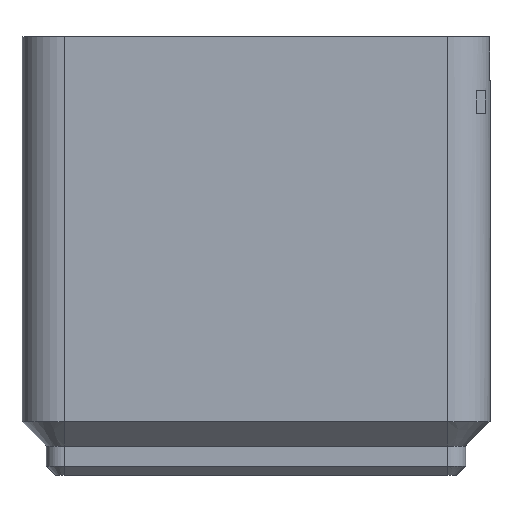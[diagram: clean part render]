
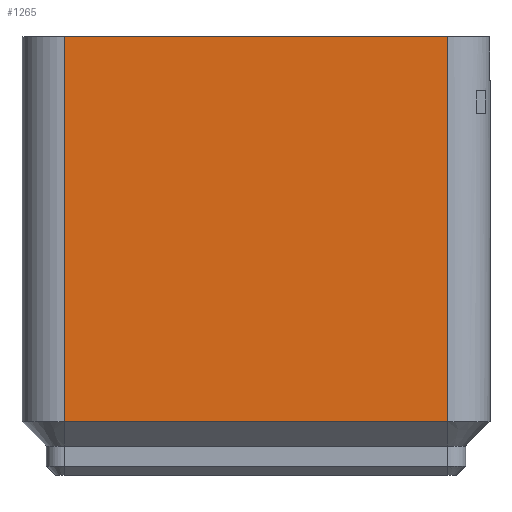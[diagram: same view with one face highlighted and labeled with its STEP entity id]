
A CAD part, left-side view. The second image highlights one B-rep face of the part: STEP entity #1265.
In plain terms, the highlighted planar face has unit normal (-1, 0, 0).
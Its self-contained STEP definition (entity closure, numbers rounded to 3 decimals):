
#417 = PLANE('',#418);
#418 = AXIS2_PLACEMENT_3D('',#419,#420,#421);
#419 = CARTESIAN_POINT('',(-20.75,0.,4.75));
#420 = DIRECTION('',(-0.707,0.,-0.707));
#421 = DIRECTION('',(0.,-1.,-0.));
#851 = VERTEX_POINT('',#852);
#852 = CARTESIAN_POINT('',(-20.75,-17.,4.75));
#870 = EDGE_CURVE('',#851,#871,#873,.T.);
#871 = VERTEX_POINT('',#872);
#872 = CARTESIAN_POINT('',(-20.75,17.,4.75));
#873 = SURFACE_CURVE('',#874,(#878,#885),.PCURVE_S1.);
#874 = LINE('',#875,#876);
#875 = CARTESIAN_POINT('',(-20.75,0.,4.75));
#876 = VECTOR('',#877,1.);
#877 = DIRECTION('',(0.,1.,0.));
#878 = PCURVE('',#417,#879);
#879 = DEFINITIONAL_REPRESENTATION('',(#880),#884);
#880 = LINE('',#881,#882);
#881 = CARTESIAN_POINT('',(0.,0.));
#882 = VECTOR('',#883,1.);
#883 = DIRECTION('',(-1.,0.));
#884 = ( GEOMETRIC_REPRESENTATION_CONTEXT(2) 
PARAMETRIC_REPRESENTATION_CONTEXT() REPRESENTATION_CONTEXT('2D SPACE',''
  ) );
#885 = PCURVE('',#886,#891);
#886 = PLANE('',#887);
#887 = AXIS2_PLACEMENT_3D('',#888,#889,#890);
#888 = CARTESIAN_POINT('',(-20.75,-17.,4.75));
#889 = DIRECTION('',(-1.,0.,0.));
#890 = DIRECTION('',(0.,1.,0.));
#891 = DEFINITIONAL_REPRESENTATION('',(#892),#896);
#892 = LINE('',#893,#894);
#893 = CARTESIAN_POINT('',(17.,0.));
#894 = VECTOR('',#895,1.);
#895 = DIRECTION('',(1.,0.));
#896 = ( GEOMETRIC_REPRESENTATION_CONTEXT(2) 
PARAMETRIC_REPRESENTATION_CONTEXT() REPRESENTATION_CONTEXT('2D SPACE',''
  ) );
#1203 = CYLINDRICAL_SURFACE('',#1204,3.75);
#1204 = AXIS2_PLACEMENT_3D('',#1205,#1206,#1207);
#1205 = CARTESIAN_POINT('',(-17.,-17.,4.75));
#1206 = DIRECTION('',(0.,0.,-1.));
#1207 = DIRECTION('',(-1.,0.,0.));
#1237 = CYLINDRICAL_SURFACE('',#1238,3.75);
#1238 = AXIS2_PLACEMENT_3D('',#1239,#1240,#1241);
#1239 = CARTESIAN_POINT('',(-17.,17.,4.75));
#1240 = DIRECTION('',(0.,0.,-1.));
#1241 = DIRECTION('',(-1.,0.,0.));
#1265 = ADVANCED_FACE('',(#1266),#886,.T.);
#1266 = FACE_BOUND('',#1267,.T.);
#1267 = EDGE_LOOP('',(#1268,#1291,#1319,#1340));
#1268 = ORIENTED_EDGE('',*,*,#1269,.T.);
#1269 = EDGE_CURVE('',#851,#1270,#1272,.T.);
#1270 = VERTEX_POINT('',#1271);
#1271 = CARTESIAN_POINT('',(-20.75,-17.,38.9));
#1272 = SURFACE_CURVE('',#1273,(#1277,#1284),.PCURVE_S1.);
#1273 = LINE('',#1274,#1275);
#1274 = CARTESIAN_POINT('',(-20.75,-17.,4.75));
#1275 = VECTOR('',#1276,1.);
#1276 = DIRECTION('',(0.,0.,1.));
#1277 = PCURVE('',#886,#1278);
#1278 = DEFINITIONAL_REPRESENTATION('',(#1279),#1283);
#1279 = LINE('',#1280,#1281);
#1280 = CARTESIAN_POINT('',(0.,0.));
#1281 = VECTOR('',#1282,1.);
#1282 = DIRECTION('',(0.,-1.));
#1283 = ( GEOMETRIC_REPRESENTATION_CONTEXT(2) 
PARAMETRIC_REPRESENTATION_CONTEXT() REPRESENTATION_CONTEXT('2D SPACE',''
  ) );
#1284 = PCURVE('',#1203,#1285);
#1285 = DEFINITIONAL_REPRESENTATION('',(#1286),#1290);
#1286 = LINE('',#1287,#1288);
#1287 = CARTESIAN_POINT('',(6.283,0.));
#1288 = VECTOR('',#1289,1.);
#1289 = DIRECTION('',(0.,-1.));
#1290 = ( GEOMETRIC_REPRESENTATION_CONTEXT(2) 
PARAMETRIC_REPRESENTATION_CONTEXT() REPRESENTATION_CONTEXT('2D SPACE',''
  ) );
#1291 = ORIENTED_EDGE('',*,*,#1292,.T.);
#1292 = EDGE_CURVE('',#1270,#1293,#1295,.T.);
#1293 = VERTEX_POINT('',#1294);
#1294 = CARTESIAN_POINT('',(-20.75,17.,38.9));
#1295 = SURFACE_CURVE('',#1296,(#1300,#1307),.PCURVE_S1.);
#1296 = LINE('',#1297,#1298);
#1297 = CARTESIAN_POINT('',(-20.75,0.,38.9));
#1298 = VECTOR('',#1299,1.);
#1299 = DIRECTION('',(0.,1.,0.));
#1300 = PCURVE('',#886,#1301);
#1301 = DEFINITIONAL_REPRESENTATION('',(#1302),#1306);
#1302 = LINE('',#1303,#1304);
#1303 = CARTESIAN_POINT('',(17.,-34.15));
#1304 = VECTOR('',#1305,1.);
#1305 = DIRECTION('',(1.,0.));
#1306 = ( GEOMETRIC_REPRESENTATION_CONTEXT(2) 
PARAMETRIC_REPRESENTATION_CONTEXT() REPRESENTATION_CONTEXT('2D SPACE',''
  ) );
#1307 = PCURVE('',#1308,#1313);
#1308 = PLANE('',#1309);
#1309 = AXIS2_PLACEMENT_3D('',#1310,#1311,#1312);
#1310 = CARTESIAN_POINT('',(0.,0.,38.9)
  );
#1311 = DIRECTION('',(0.,0.,1.));
#1312 = DIRECTION('',(1.,0.,-0.));
#1313 = DEFINITIONAL_REPRESENTATION('',(#1314),#1318);
#1314 = LINE('',#1315,#1316);
#1315 = CARTESIAN_POINT('',(-20.75,0.));
#1316 = VECTOR('',#1317,1.);
#1317 = DIRECTION('',(0.,1.));
#1318 = ( GEOMETRIC_REPRESENTATION_CONTEXT(2) 
PARAMETRIC_REPRESENTATION_CONTEXT() REPRESENTATION_CONTEXT('2D SPACE',''
  ) );
#1319 = ORIENTED_EDGE('',*,*,#1320,.F.);
#1320 = EDGE_CURVE('',#871,#1293,#1321,.T.);
#1321 = SURFACE_CURVE('',#1322,(#1326,#1333),.PCURVE_S1.);
#1322 = LINE('',#1323,#1324);
#1323 = CARTESIAN_POINT('',(-20.75,17.,4.75));
#1324 = VECTOR('',#1325,1.);
#1325 = DIRECTION('',(0.,0.,1.));
#1326 = PCURVE('',#886,#1327);
#1327 = DEFINITIONAL_REPRESENTATION('',(#1328),#1332);
#1328 = LINE('',#1329,#1330);
#1329 = CARTESIAN_POINT('',(34.,0.));
#1330 = VECTOR('',#1331,1.);
#1331 = DIRECTION('',(0.,-1.));
#1332 = ( GEOMETRIC_REPRESENTATION_CONTEXT(2) 
PARAMETRIC_REPRESENTATION_CONTEXT() REPRESENTATION_CONTEXT('2D SPACE',''
  ) );
#1333 = PCURVE('',#1237,#1334);
#1334 = DEFINITIONAL_REPRESENTATION('',(#1335),#1339);
#1335 = LINE('',#1336,#1337);
#1336 = CARTESIAN_POINT('',(0.,0.));
#1337 = VECTOR('',#1338,1.);
#1338 = DIRECTION('',(0.,-1.));
#1339 = ( GEOMETRIC_REPRESENTATION_CONTEXT(2) 
PARAMETRIC_REPRESENTATION_CONTEXT() REPRESENTATION_CONTEXT('2D SPACE',''
  ) );
#1340 = ORIENTED_EDGE('',*,*,#870,.F.);
